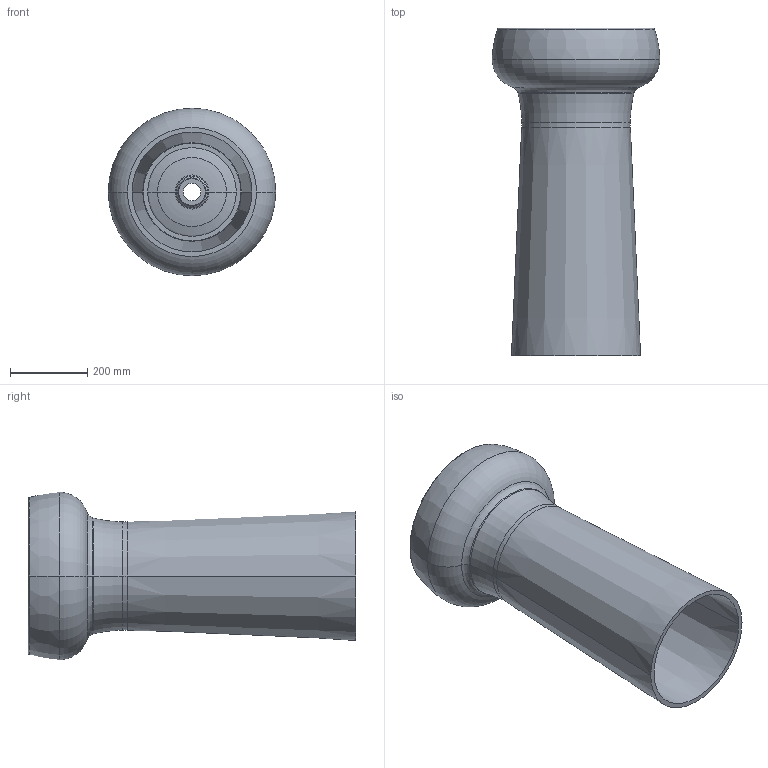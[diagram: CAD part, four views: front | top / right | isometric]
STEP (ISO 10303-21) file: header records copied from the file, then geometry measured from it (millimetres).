
FILE_DESCRIPTION (( 'STEP AP203' ), '1' );
FILE_NAME ('LALF04040S00.STEP', '2019-10-14T07:58:35', ( '' ), ( '' ), 'SwSTEP 2.0', 'SolidWorks 2019', '' );
FILE_SCHEMA (( 'CONFIG_CONTROL_DESIGN' ));
Length unit declared in the file: millimetre
Products named in the file (1): LALF04040S00
Bounding box: 435 x 850 x 435 mm (x, y, z)
Volume: 13125086.8 mm3; surface area: 2178588 mm2
Topology: 1 solids, 1 shells, 73 faces, 146 edges, 82 vertices
Faces by surface type: torus 44, cone 10, cylinder 10, plane 9
Entity records: 1999 total; most frequent: DIRECTION 420, CARTESIAN_POINT 302, ORIENTED_EDGE 292, AXIS2_PLACEMENT_3D 200, EDGE_CURVE 146, CIRCLE 126, VERTEX_POINT 82, EDGE_LOOP 82
